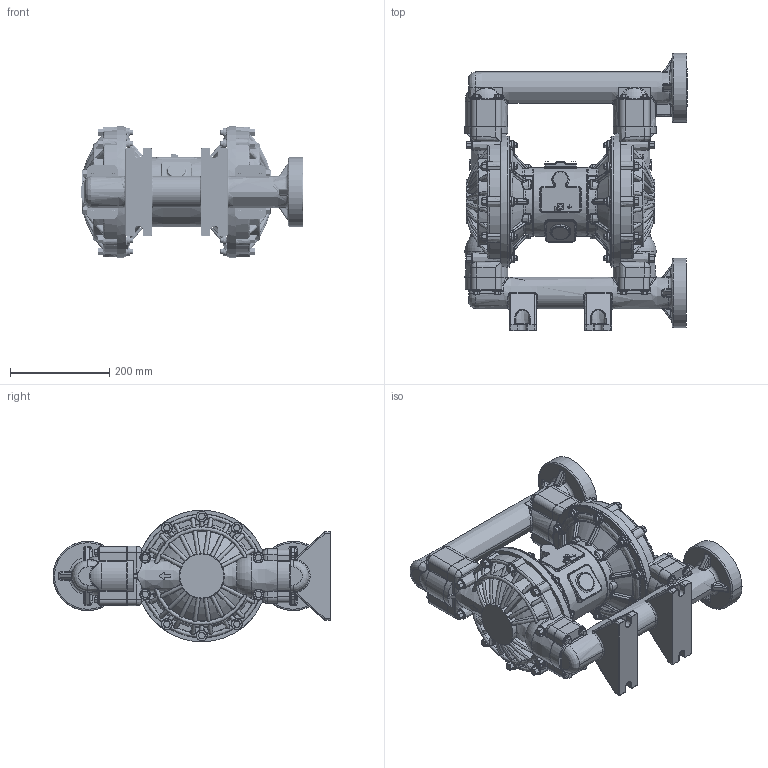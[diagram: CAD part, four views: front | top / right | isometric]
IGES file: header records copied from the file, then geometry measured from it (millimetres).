
Start section:  PTC IGES file: 24b758-en-e.igs
Global section: file name: 24b758-en-e.igs; native system: Creo Parametric by PTC Inc.; preprocessor: 2021072; author: qtmwp1; organization: Unknown; date: 20220214.111903; units: inch
Bounding box: 449 x 560.32 x 265.43 mm (x, y, z)
Surface area: 1228503.4 mm2 (no closed solid volume)
Topology: 0 solids, 0 shells, 2771 faces, 13915 edges, 13915 vertices
Faces by surface type: revolution 1581, bspline 1190
